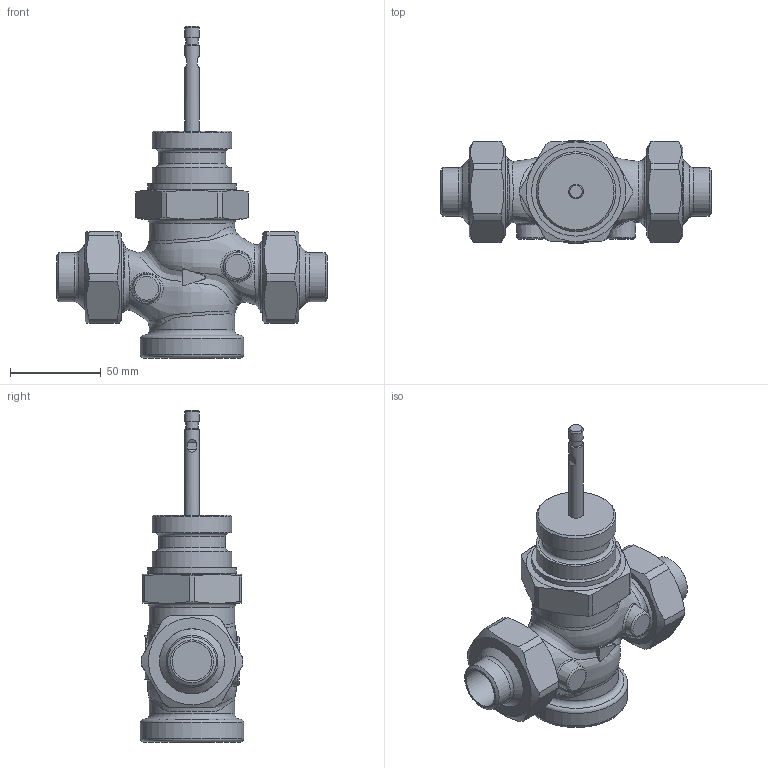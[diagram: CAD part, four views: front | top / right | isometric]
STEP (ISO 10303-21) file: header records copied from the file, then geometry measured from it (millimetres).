
FILE_DESCRIPTION(/* description */ (''),/* implementation_level */ '2;1');
FILE_NAME(/* name */ 'rv122_L_dn20_W.stp',/* time_stamp */ '2025-07-08T09:00:32+02:00',/* author */ ('Jan Novák'),/* organization */ ('LDM'),/* preprocessor_version */ 'ST-DEVELOPER v18.102',/* originating_system */ 'SIEMENS PLM Software NX2206.3001',/* authorisation */ '');
FILE_SCHEMA (('AUTOMOTIVE_DESIGN { 1 0 10303 214 3 1 1 1 }'));
Length unit declared in the file: millimetre
Products named in the file (1): rv_0763-766_rv122_L_dn20_objects
Bounding box: 149 x 57 x 183.1 mm (x, y, z)
Volume: 368464.9 mm3; surface area: 65591.2 mm2
Topology: 7 solids, 7 shells, 180 faces, 421 edges, 270 vertices
Faces by surface type: plane 60, cylinder 55, cone 35, bspline 20, torus 10
Full cylindrical faces by diameter (mm): 7 x1, 8 x2, 21.7 x2, 26.9 x2, 28 x2, 35.8 x2, 36 x2, 37 x1, 38 x3, 38.6 x2, 38.952 x2, 41.91 x2, 44 x2, 47 x2, 49 x1, 57 x1
Entity records: 10456 total; most frequent: CARTESIAN_POINT 6834, DIRECTION 679, ORIENTED_EDGE 618, AXIS2_PLACEMENT_3D 311, EDGE_CURVE 309, EDGE_LOOP 278, VERTEX_POINT 229, FACE_BOUND 190
